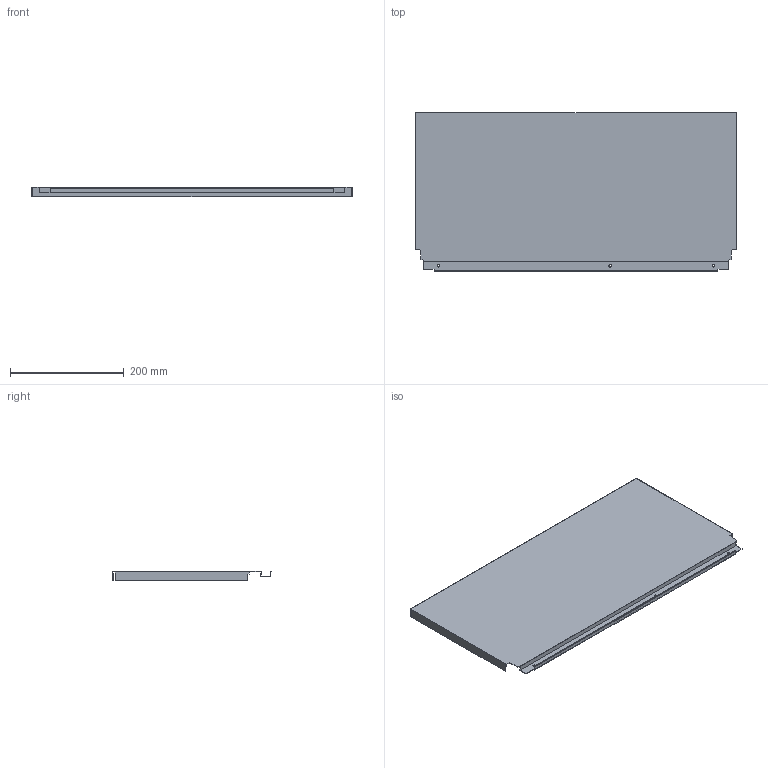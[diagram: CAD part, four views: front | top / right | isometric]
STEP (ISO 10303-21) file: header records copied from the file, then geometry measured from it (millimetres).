
FILE_DESCRIPTION (( 'STEP AP214' ), '1' );
FILE_NAME ('_DWD_XP Stahlrückwand_H278_KAB650_S18.step', '2010-07-08T13:03:57', ( 'grass' ), ( '' ), 'SwSTEP 2.0', 'SolidWorks 2010', '' );
FILE_SCHEMA (( 'AUTOMOTIVE_DESIGN' ));
Length unit declared in the file: millimetre
Products named in the file (1): _DWD_XP Stahlrückwand_H278_KAB650_S18
Bounding box: 563 x 278.57 x 16 mm (x, y, z)
Volume: 157756.1 mm3; surface area: 360105.9 mm2
Topology: 1 solids, 1 shells, 46 faces, 132 edges, 88 vertices
Faces by surface type: plane 40, cylinder 6
Entity records: 1534 total; most frequent: CARTESIAN_POINT 267, ORIENTED_EDGE 264, DIRECTION 238, EDGE_CURVE 132, VECTOR 120, LINE 120, VERTEX_POINT 88, AXIS2_PLACEMENT_3D 59
